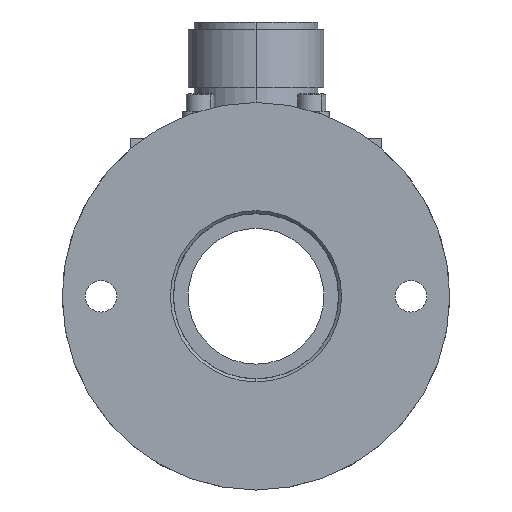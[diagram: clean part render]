
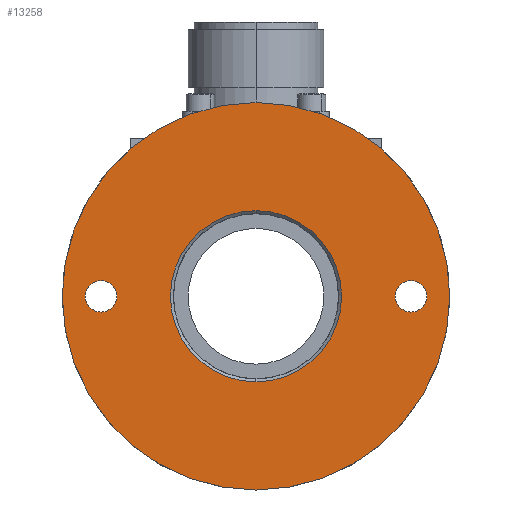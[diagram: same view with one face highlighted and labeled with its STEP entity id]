
A CAD part, left-side view. The second image highlights one B-rep face of the part: STEP entity #13258.
In plain terms, the highlighted planar face has unit normal (-1, 0, 0).
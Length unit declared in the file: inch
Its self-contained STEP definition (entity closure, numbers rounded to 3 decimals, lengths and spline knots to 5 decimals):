
#5 = DIRECTION ( 'NONE',  ( 1., 0., 0. ) ) ;
#214 = DIRECTION ( 'NONE',  ( 1., 0., 0. ) ) ;
#584 = AXIS2_PLACEMENT_3D ( 'NONE', #13021, #1723, #14975 ) ;
#805 = CIRCLE ( 'NONE', #7451, 0.10156 ) ;
#1360 = CARTESIAN_POINT ( 'NONE',  ( -1.0625, 0., 0. ) ) ;
#1662 = DIRECTION ( 'NONE',  ( 1., 0., 0. ) ) ;
#1723 = DIRECTION ( 'NONE',  ( 1., 0., 0. ) ) ;
#2022 = CARTESIAN_POINT ( 'NONE',  ( -1.0625, 0., -0.55222 ) ) ;
#2101 = CARTESIAN_POINT ( 'NONE',  ( -1.0625, 0., -1.25 ) ) ;
#2185 = ORIENTED_EDGE ( 'NONE', *, *, #3366, .T. ) ;
#2479 = CARTESIAN_POINT ( 'NONE',  ( -1.0625, 1., 0. ) ) ;
#3234 = DIRECTION ( 'NONE',  ( 0., 0., -1. ) ) ;
#3366 = EDGE_CURVE ( 'NONE', #5707, #5102, #805, .T. ) ;
#3525 = AXIS2_PLACEMENT_3D ( 'NONE', #2479, #15743, #4386 ) ;
#4386 = DIRECTION ( 'NONE',  ( 0., 0., -1. ) ) ;
#4388 = DIRECTION ( 'NONE',  ( 0., 0., -1. ) ) ;
#4609 = ORIENTED_EDGE ( 'NONE', *, *, #16283, .F. ) ;
#4996 = CARTESIAN_POINT ( 'NONE',  ( -1.0625, 1., -0.10156 ) ) ;
#5102 = VERTEX_POINT ( 'NONE', #4996 ) ;
#5144 = EDGE_CURVE ( 'NONE', #9418, #12273, #22070, .T. ) ;
#5567 = CARTESIAN_POINT ( 'NONE',  ( -1.0625, 0., 1.25 ) ) ;
#5707 = VERTEX_POINT ( 'NONE', #21479 ) ;
#6054 = CIRCLE ( 'NONE', #19732, 1.25 ) ;
#6925 = DIRECTION ( 'NONE',  ( 1., 0., 0. ) ) ;
#7451 = AXIS2_PLACEMENT_3D ( 'NONE', #11733, #19870, #4388 ) ;
#7524 = CARTESIAN_POINT ( 'NONE',  ( -1.0625, 0., 0.55222 ) ) ;
#8718 = FACE_BOUND ( 'NONE', #22614, .T. ) ;
#8916 = CIRCLE ( 'NONE', #19507, 0.10156 ) ;
#9080 = DIRECTION ( 'NONE',  ( 0., 0., -1. ) ) ;
#9418 = VERTEX_POINT ( 'NONE', #14127 ) ;
#9606 = EDGE_LOOP ( 'NONE', ( #18876, #4609 ) ) ;
#10369 = CIRCLE ( 'NONE', #21271, 0.55222 ) ;
#10507 = EDGE_CURVE ( 'NONE', #12273, #9418, #8916, .T. ) ;
#10735 = ORIENTED_EDGE ( 'NONE', *, *, #5144, .T. ) ;
#11334 = CARTESIAN_POINT ( 'NONE',  ( -1.0625, 0., 0. ) ) ;
#11546 = CARTESIAN_POINT ( 'NONE',  ( -1.0625, 0., 0. ) ) ;
#11733 = CARTESIAN_POINT ( 'NONE',  ( -1.0625, 1., 0. ) ) ;
#11798 = AXIS2_PLACEMENT_3D ( 'NONE', #18290, #6925, #20182 ) ;
#12224 = AXIS2_PLACEMENT_3D ( 'NONE', #24595, #22197, #9080 ) ;
#12273 = VERTEX_POINT ( 'NONE', #22598 ) ;
#12962 = CARTESIAN_POINT ( 'NONE',  ( -1.0625, -1., 0. ) ) ;
#13021 = CARTESIAN_POINT ( 'NONE',  ( -1.0625, 0., 0. ) ) ;
#13253 = DIRECTION ( 'NONE',  ( 0., 0., -1. ) ) ;
#13258 = ADVANCED_FACE ( 'NONE', ( #18819, #8718, #23295, #18228 ), #23890, .F. ) ;
#13415 = ORIENTED_EDGE ( 'NONE', *, *, #18339, .T. ) ;
#13470 = DIRECTION ( 'NONE',  ( 0., 0., -1. ) ) ;
#13974 = VERTEX_POINT ( 'NONE', #5567 ) ;
#14059 = CIRCLE ( 'NONE', #16971, 1.25 ) ;
#14127 = CARTESIAN_POINT ( 'NONE',  ( -1.0625, -1., 0.10156 ) ) ;
#14607 = VERTEX_POINT ( 'NONE', #7524 ) ;
#14611 = DIRECTION ( 'NONE',  ( 1., 0., 0. ) ) ;
#14903 = DIRECTION ( 'NONE',  ( 0., 0., -1. ) ) ;
#14975 = DIRECTION ( 'NONE',  ( 0., 0., -1. ) ) ;
#15743 = DIRECTION ( 'NONE',  ( 1., 0., 0. ) ) ;
#16075 = VERTEX_POINT ( 'NONE', #2101 ) ;
#16283 = EDGE_CURVE ( 'NONE', #16075, #13974, #14059, .T. ) ;
#16971 = AXIS2_PLACEMENT_3D ( 'NONE', #11546, #214, #13470 ) ;
#18028 = ORIENTED_EDGE ( 'NONE', *, *, #18851, .T. ) ;
#18228 = FACE_OUTER_BOUND ( 'NONE', #9606, .T. ) ;
#18290 = CARTESIAN_POINT ( 'NONE',  ( -1.0625, 0., 0. ) ) ;
#18339 = EDGE_CURVE ( 'NONE', #14607, #23247, #21130, .T. ) ;
#18660 = ORIENTED_EDGE ( 'NONE', *, *, #21037, .T. ) ;
#18819 = FACE_BOUND ( 'NONE', #24056, .T. ) ;
#18851 = EDGE_CURVE ( 'NONE', #23247, #14607, #10369, .T. ) ;
#18876 = ORIENTED_EDGE ( 'NONE', *, *, #20801, .F. ) ;
#19507 = AXIS2_PLACEMENT_3D ( 'NONE', #12962, #1662, #14903 ) ;
#19732 = AXIS2_PLACEMENT_3D ( 'NONE', #11334, #5, #13253 ) ;
#19870 = DIRECTION ( 'NONE',  ( 1., 0., 0. ) ) ;
#19988 = CIRCLE ( 'NONE', #3525, 0.10156 ) ;
#20182 = DIRECTION ( 'NONE',  ( 0., 0., -1. ) ) ;
#20518 = ORIENTED_EDGE ( 'NONE', *, *, #10507, .T. ) ;
#20768 = EDGE_LOOP ( 'NONE', ( #20518, #10735 ) ) ;
#20801 = EDGE_CURVE ( 'NONE', #13974, #16075, #6054, .T. ) ;
#21037 = EDGE_CURVE ( 'NONE', #5102, #5707, #19988, .T. ) ;
#21130 = CIRCLE ( 'NONE', #584, 0.55222 ) ;
#21271 = AXIS2_PLACEMENT_3D ( 'NONE', #1360, #14611, #3234 ) ;
#21479 = CARTESIAN_POINT ( 'NONE',  ( -1.0625, 1., 0.10156 ) ) ;
#22070 = CIRCLE ( 'NONE', #12224, 0.10156 ) ;
#22197 = DIRECTION ( 'NONE',  ( 1., 0., 0. ) ) ;
#22598 = CARTESIAN_POINT ( 'NONE',  ( -1.0625, -1., -0.10156 ) ) ;
#22614 = EDGE_LOOP ( 'NONE', ( #18660, #2185 ) ) ;
#23247 = VERTEX_POINT ( 'NONE', #2022 ) ;
#23295 = FACE_BOUND ( 'NONE', #20768, .T. ) ;
#23890 = PLANE ( 'NONE',  #11798 ) ;
#24056 = EDGE_LOOP ( 'NONE', ( #13415, #18028 ) ) ;
#24595 = CARTESIAN_POINT ( 'NONE',  ( -1.0625, -1., 0. ) ) ;
